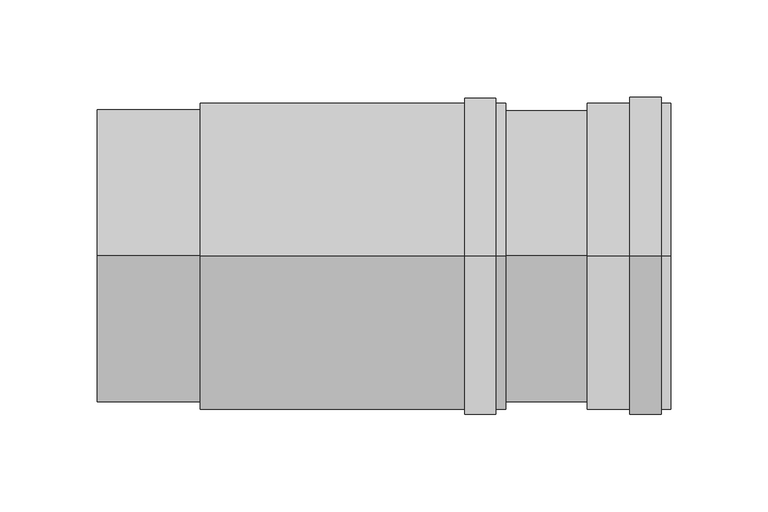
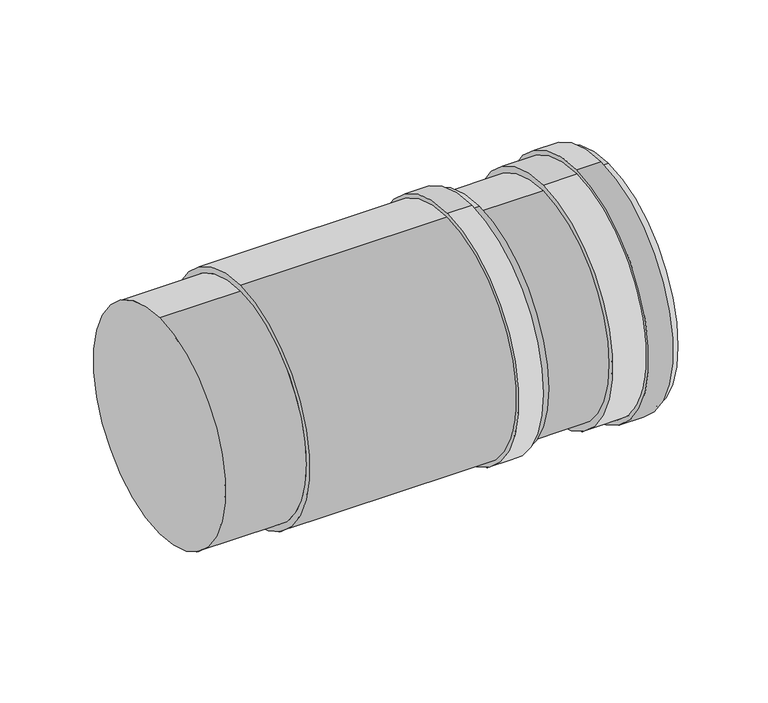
"""IFC4 building model written with IfcOpenShell, lengths in millimetres: duct fitting geometry, NLRS_57_DUF_UN_Twinline Adjuster_M&G : ø130-150."""

from ifc_helpers import new_model, si_unit, point, frame, origin, origin_2d, place, context, project, spatial, polyline, circle_curve, trimmed, segment, composite_curve, outline, extrude, source, transform, mapped, element, save
from ifc_brep_helpers import plane_surface, cylinder_surface, revolved_surface, advanced_brep


def duct_fitting_88745d1b(model_context):
    return source(origin(), model_context, "Body", "SolidModel", [
        extrude(outline(composite_curve([segment(trimmed(circle_curve(origin_2d(), 81.5), [point((0.0, -81.5))], [point((0.0, 81.5))], False, "CARTESIAN"), True, "CONTINUOUS"), segment(trimmed(circle_curve(origin_2d(), 81.5), [point((0.0, 81.5))], [point((0.0, -81.5))], False, "CARTESIAN"), True, "CONTINUOUS")], self_intersect=False), holes=[composite_curve([segment(trimmed(circle_curve(origin_2d(), 78.5), [point((0.0, 78.5))], [point((0.0, -78.5))], True, "CARTESIAN"), True, "CONTINUOUS"), segment(trimmed(circle_curve(origin_2d(), 78.5), [point((0.0, -78.5))], [point((0.0, 78.5))], True, "CARTESIAN"), True, "CONTINUOUS")], self_intersect=False)]), frame((189.0, 0.0, 0.0), z_axis=(1.0, 0.0, 0.0), x_axis=(0.0, 1.0, 0.0)), (0.0, 0.0, 1.0), 16.0),
        advanced_brep(
        [(252.0, 0.0, -75.0), (252.0, 0.0, 75.0), (0.0, 0.0, -75.0), (0.0, 0.0, 75.0), (210.0, 0.0, 75.0), (210.0, 0.0, -75.0), (53.0, 0.0, -75.0), (53.0, 0.0, 75.0), (210.0, 0.0, -79.0), (210.0, 0.0, 79.0), (53.0, 0.0, -79.0), (53.0, 0.0, 79.0)],
        [
            (0, 1, circle_curve(frame((252.0, 0.0, 0.0), z_axis=(1.0, 0.0, 0.0), x_axis=(0.0, 0.0, 1.0)), 75.0)),
            (1, 0, circle_curve(frame((252.0, 0.0, 0.0), z_axis=(1.0, 0.0, 0.0), x_axis=(0.0, 0.0, 1.0)), 75.0)),
            (2, 3, circle_curve(frame((0.0, 0.0, 0.0), z_axis=(-1.0, 0.0, 0.0), x_axis=(0.0, 0.0, 1.0)), 75.0)),
            (3, 2, circle_curve(frame((0.0, 0.0, 0.0), z_axis=(-1.0, 0.0, 0.0), x_axis=(0.0, 0.0, 1.0)), 75.0)),
            (1, 4),
            (4, 5, circle_curve(frame((210.0, 0.0, 0.0), z_axis=(1.0, 0.0, 0.0), x_axis=(0.0, 0.0, 1.0)), 75.0)),
            (5, 0),
            (2, 6),
            (6, 7, circle_curve(frame((53.0, 0.0, 0.0), z_axis=(-1.0, 0.0, 0.0), x_axis=(0.0, 0.0, 1.0)), 75.0)),
            (7, 3),
            (5, 4, circle_curve(frame((210.0, 0.0, 0.0), z_axis=(1.0, 0.0, 0.0), x_axis=(0.0, 0.0, 1.0)), 75.0)),
            (7, 6, circle_curve(frame((53.0, 0.0, 0.0), z_axis=(-1.0, 0.0, 0.0), x_axis=(0.0, 0.0, 1.0)), 75.0)),
            (8, 9, circle_curve(frame((210.0, 0.0, 0.0), z_axis=(1.0, 0.0, 0.0), x_axis=(0.0, 0.0, 1.0)), 79.0)),
            (9, 8, circle_curve(frame((210.0, 0.0, 0.0), z_axis=(1.0, 0.0, 0.0), x_axis=(0.0, 0.0, 1.0)), 79.0)),
            (10, 11, circle_curve(frame((53.0, 0.0, 0.0), z_axis=(-1.0, 0.0, 0.0), x_axis=(0.0, 0.0, 1.0)), 79.0)),
            (11, 10, circle_curve(frame((53.0, 0.0, 0.0), z_axis=(-1.0, 0.0, 0.0), x_axis=(0.0, 0.0, 1.0)), 79.0)),
            (8, 10),
            (11, 9),
        ],
        [
            plane_surface(frame((252.0, 0.0, 75.0), z_axis=(1.0, 0.0, 0.0), x_axis=(0.0, -1.0, 0.0))),
            plane_surface(frame((0.0, 0.0, 75.0), z_axis=(-1.0, 0.0, 0.0), x_axis=(0.0, 1.0, 0.0))),
            cylinder_surface(frame((252.0, 0.0, 0.0), z_axis=(-1.0, 0.0, 0.0), x_axis=(0.0, 0.0, 1.0)), 75.0),
            plane_surface(frame((210.0, 0.0, 79.0), z_axis=(1.0, 0.0, 0.0), x_axis=(0.0, -1.0, 0.0))),
            plane_surface(frame((53.0, 0.0, 79.0), z_axis=(-1.0, 0.0, 0.0), x_axis=(0.0, 1.0, 0.0))),
            cylinder_surface(frame((210.0, 0.0, 0.0), z_axis=(-1.0, 0.0, 0.0), x_axis=(0.0, 0.0, 1.0)), 79.0),
        ],
        [
            (0, [[1, 2]]),
            (1, [[3, 4]]),
            (2, [[-2, 5, 6, 7]]),
            (2, [[-3, 8, 9, 10]]),
            (2, [[-1, -7, 11, -5]]),
            (2, [[-4, -10, 12, -8]]),
            (3, [[13, 14], [-6, -11]]),
            (4, [[15, 16], [-9, -12]]),
            (5, [[-13, 17, -16, 18]]),
            (5, [[-14, -18, -15, -17]]),
        ],
    ),
        advanced_brep(
        [(252.0, 0.0, -79.0), (252.0, 0.0, 79.0), (295.0, 0.0, 79.0), (295.0, 0.0, -79.0), (255.0, 0.0, 76.0), (255.0, 0.0, -76.0), (295.0, 0.0, -76.0), (295.0, 0.0, 76.0)],
        [
            (0, 1, circle_curve(frame((252.0, 0.0, 0.0), z_axis=(-1.0, 0.0, 0.0), x_axis=(0.0, 0.0, 1.0)), 79.0)),
            (1, 0, circle_curve(frame((252.0, 0.0, 0.0), z_axis=(-1.0, 0.0, 0.0), x_axis=(0.0, 0.0, 1.0)), 79.0)),
            (2, 3, circle_curve(frame((295.0, 0.0, 0.0), z_axis=(-1.0, 0.0, 0.0), x_axis=(0.0, 0.0, 1.0)), 79.0)),
            (3, 0),
            (1, 2),
            (3, 2, circle_curve(frame((295.0, 0.0, 0.0), z_axis=(-1.0, 0.0, 0.0), x_axis=(0.0, 0.0, 1.0)), 79.0)),
            (4, 5, circle_curve(frame((255.0, 0.0, 0.0), z_axis=(-1.0, 0.0, 0.0), x_axis=(0.0, 0.0, -1.0)), 76.0)),
            (5, 6),
            (6, 7, circle_curve(frame((295.0, 0.0, 0.0), z_axis=(1.0, 0.0, 0.0), x_axis=(0.0, 0.0, -1.0)), 76.0)),
            (7, 4),
            (5, 4, circle_curve(frame((255.0, 0.0, 0.0), z_axis=(-1.0, 0.0, 0.0), x_axis=(0.0, 0.0, -1.0)), 76.0)),
            (7, 6, circle_curve(frame((295.0, 0.0, 0.0), z_axis=(1.0, 0.0, 0.0), x_axis=(0.0, 0.0, -1.0)), 76.0)),
        ],
        [
            plane_surface(frame((252.0, 0.0, 79.0), z_axis=(-1.0, 0.0, 0.0), x_axis=(0.0, 1.0, 0.0))),
            cylinder_surface(frame((252.0, 0.0, 0.0), z_axis=(1.0, 0.0, 0.0), x_axis=(0.0, 0.0, 1.0)), 79.0),
            revolved_surface(polyline([(255.0, 0.0, -76.0), (295.0, 0.0, -76.0)]), (295.0, 0.0, 0.0), (-1.0, 0.0, 0.0)),
            plane_surface(frame((295.0, 0.0, 79.0), z_axis=(1.0, 0.0, 0.0), x_axis=(0.0, -1.0, 0.0))),
            plane_surface(frame((255.0, 0.0, -76.0), z_axis=(1.0, 0.0, 0.0), x_axis=(0.0, -1.0, 0.0))),
        ],
        [
            (0, [[1, 2]]),
            (1, [[3, 4, -2, 5]]),
            (1, [[6, -5, -1, -4]]),
            (2, [[7, 8, 9, 10]]),
            (2, [[11, -10, 12, -8]]),
            (3, [[-3, -6], [-9, -12]]),
            (4, [[-11, -7]]),
        ],
    ),
        extrude(outline(composite_curve([segment(trimmed(circle_curve(origin_2d(), 82.0), [point((0.0, -82.0))], [point((0.0, 82.0))], False, "CARTESIAN"), True, "CONTINUOUS"), segment(trimmed(circle_curve(origin_2d(), 82.0), [point((0.0, 82.0))], [point((0.0, -82.0))], False, "CARTESIAN"), True, "CONTINUOUS")], self_intersect=False), holes=[composite_curve([segment(trimmed(circle_curve(origin_2d(), 79.0), [point((0.0, 79.0))], [point((0.0, -79.0))], True, "CARTESIAN"), True, "CONTINUOUS"), segment(trimmed(circle_curve(origin_2d(), 79.0), [point((0.0, -79.0))], [point((0.0, 79.0))], True, "CARTESIAN"), True, "CONTINUOUS")], self_intersect=False)]), frame((274.0, 0.0, 0.0), z_axis=(1.0, 0.0, 0.0), x_axis=(0.0, 1.0, 0.0)), (0.0, 0.0, 1.0), 16.0),
    ])


if __name__ == "__main__":
    model = new_model("IFC4")
    model_context = context("Model", 3, world=origin())
    ifc_project = project(units=[si_unit("LENGTHUNIT", "METRE", prefix="MILLI")], contexts=[model_context])
    site = spatial("IfcSite", under=ifc_project)
    building = spatial("IfcBuilding", under=site)
    placement = place(None, origin())
    duct_fitting_shape = duct_fitting_88745d1b(model_context)
    element("IfcDuctFitting", 1, ObjectType="NLRS_57_DUF_UN_Twinline Adjuster_M&G : ø130-150", at=placement, inside=building, context=model_context, shape_type="MappedRepresentation", body=[
        mapped(duct_fitting_shape, transform((0.0, 0.0, 0.0), x_axis=(1.0, 0.0, 0.0), y_axis=(0.0, 1.0, 0.0), z_axis=(0.0, 0.0, 1.0))),
    ])
    save(model, "model.ifc")
